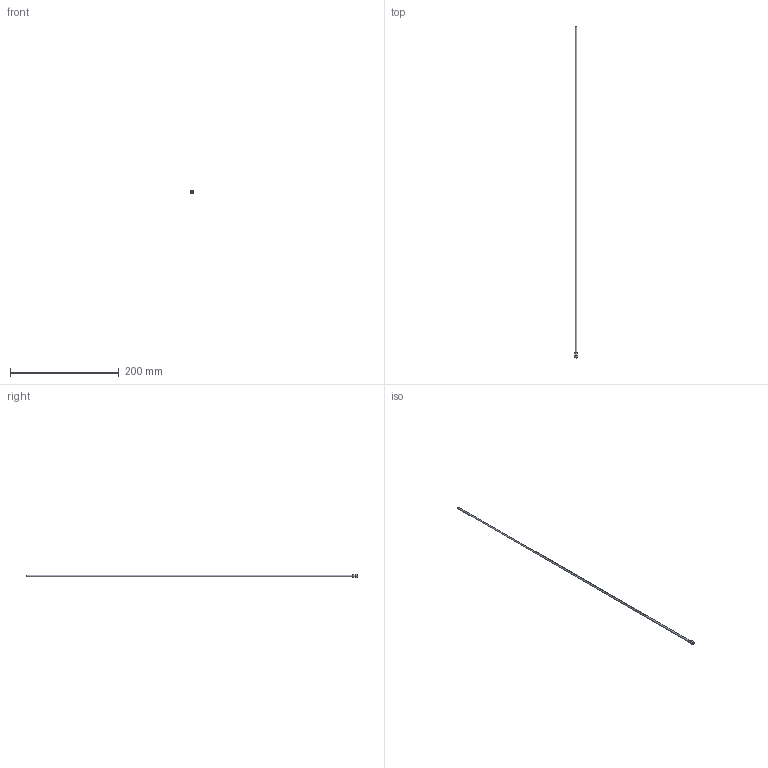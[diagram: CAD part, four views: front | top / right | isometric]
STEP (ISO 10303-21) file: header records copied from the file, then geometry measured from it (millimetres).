
FILE_DESCRIPTION(/* description */ (''),/* implementation_level */ '2;1');
FILE_NAME(/* name */ 'C:/Users/drich/Desktop/R125T-24 v1.step',/* time_stamp */ '2019-12-30T13:13:22-06:00',/* author */ (''),/* organization */ (''),/* preprocessor_version */ 'ST-DEVELOPER v18',/* originating_system */ 'Autodesk Translation Framework v8.12.0.6',/* authorisation */ '');
FILE_SCHEMA (('AUTOMOTIVE_DESIGN { 1 0 10303 214 3 1 1 }'));
Length unit declared in the file: inch
Products named in the file (1): R125T-24
Bounding box: 6.21 x 609.6 x 6.21 mm (x, y, z)
Volume: 1278.6 mm3; surface area: 11416.7 mm2
Topology: 1 solids, 1 shells, 19 faces, 47 edges, 33 vertices
Faces by surface type: plane 11, cylinder 4, torus 3, cone 1
Full cylindrical faces by diameter (mm): 2.743 x1, 3.15 x1, 4.727 x1, 6.213 x1
Entity records: 624 total; most frequent: DIRECTION 111, CARTESIAN_POINT 100, ORIENTED_EDGE 94, EDGE_CURVE 47, AXIS2_PLACEMENT_3D 44, VERTEX_POINT 33, EDGE_LOOP 24, CIRCLE 24
